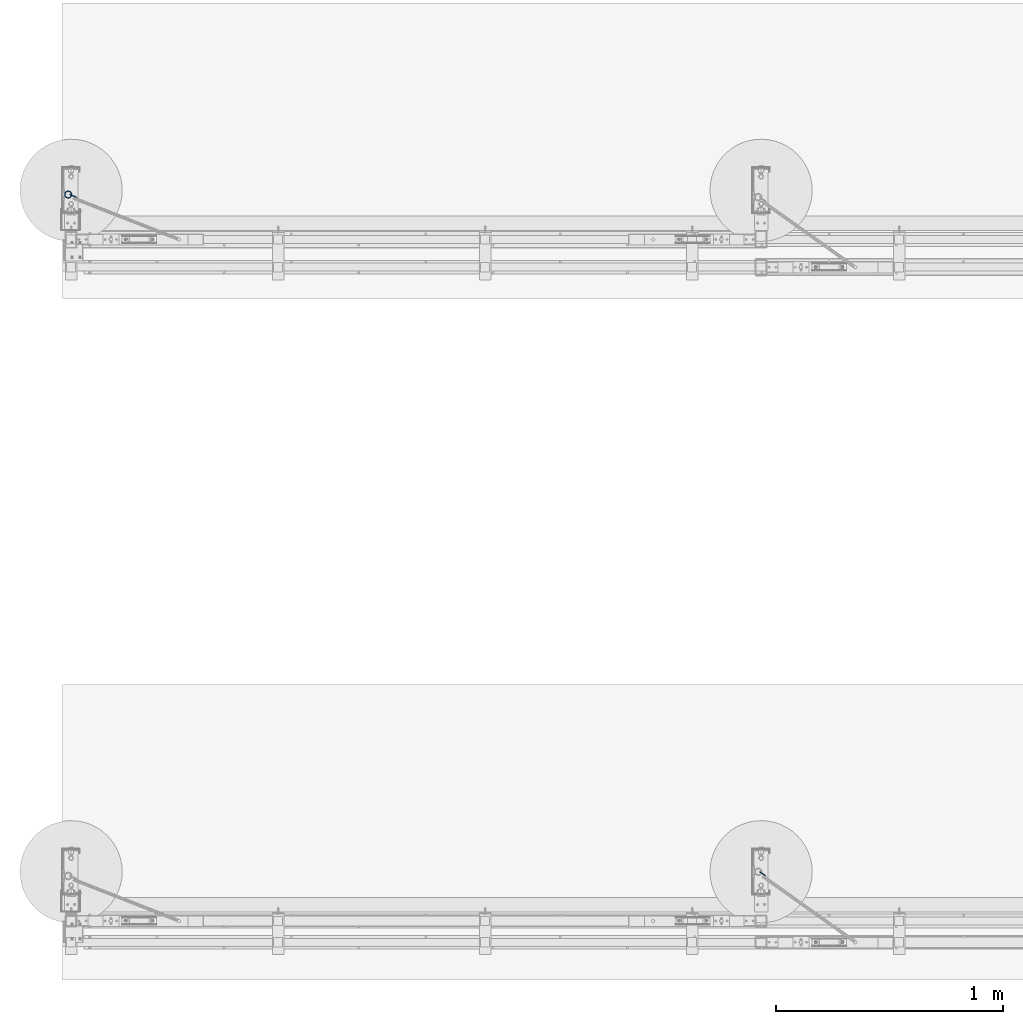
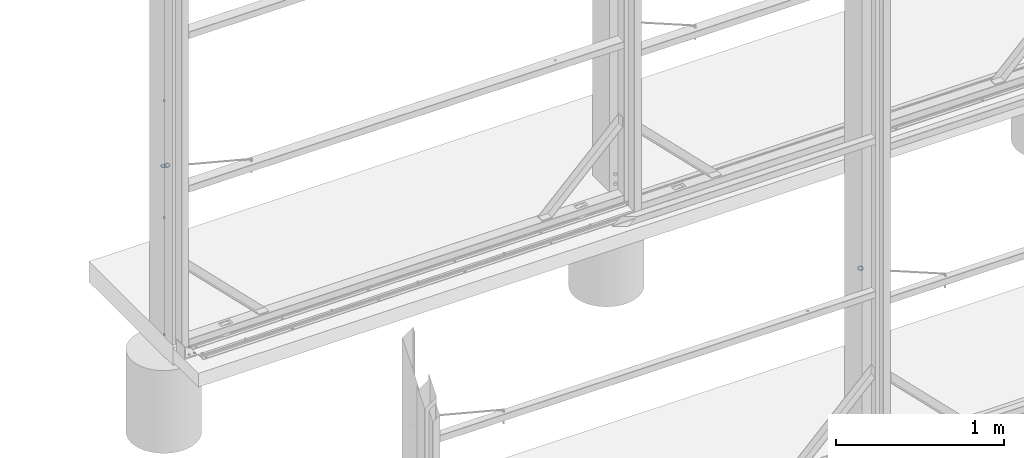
# One storey, part 85 of 91: 3 beams, 3 elements without a shape of their own.
"""IFC2X3 building model written with IfcOpenShell, lengths in millimetres."""

from ifc_helpers import new_model, si_unit, frame, origin_with_axes, place, context, subcontext, project, spatial, faceted_brep, material, type_object, element, aggregate, save


model = new_model("IFC2X3")

# Units and contexts
model_context = context("Model", 3, precision=1e-05, world=origin_with_axes())
body_context = subcontext(model_context, "Body", "Model", "MODEL_VIEW")
ifc_project = project(units=[si_unit("LENGTHUNIT", "METRE", prefix="MILLI"), si_unit("AREAUNIT", "SQUARE_METRE"), si_unit("VOLUMEUNIT", "CUBIC_METRE"), si_unit("MASSUNIT", "GRAM", prefix="KILO"), si_unit("TIMEUNIT", "SECOND"), si_unit("PLANEANGLEUNIT", "RADIAN"), si_unit("SOLIDANGLEUNIT", "STERADIAN"), si_unit("THERMODYNAMICTEMPERATUREUNIT", "DEGREE_CELSIUS"), si_unit("LUMINOUSINTENSITYUNIT", "LUMEN")], contexts=[model_context])

# Site, building, storey
site_placement = place(None, origin_with_axes())
site = spatial("IfcSite", under=ifc_project, at=site_placement, Name="Undefined", CompositionType="ELEMENT")
building_placement = place(site_placement, origin_with_axes())
building = spatial("IfcBuilding", under=site, at=building_placement, Name="Undefined", CompositionType="ELEMENT")
storey_placement = place(building_placement, origin_with_axes())
storey = spatial("IfcBuildingStorey", under=building, at=storey_placement, Name="Undefined", CompositionType="ELEMENT", Elevation=0.0)

# Assembly, beam
assembly_1_placement = place(storey_placement, origin_with_axes())
assembly_1 = element("IfcElementAssembly", 1, at=assembly_1_placement, inside=storey, Name="LINKS", AssemblyPlace="NOTDEFINED", PredefinedType="RIGID_FRAME")
ifc_material = material(Name="STEEL/250")
beam_type = type_object("IfcBeamType", Name="D5", PredefinedType="NOTDEFINED")
beam_1_placement = place(assembly_1_placement, frame((-116823.643040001, 87894.8948728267, 1162.34), z_axis=(0.0, 1.0, 0.0), x_axis=(1.0, 0.0, 0.0)))
beam_1 = element("IfcBeam", 2, at=beam_1_placement, type_object=beam_type, material=ifc_material, Name="LINKS", ObjectType="D5", context=body_context, shape_type="Brep", body=[
    faceted_brep([(31.767766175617, -1.76776700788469, 14.8999996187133), (32.4999992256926, -5.6170392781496e-08, 14.8999996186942), (32.4999992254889, -5.59666659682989e-08, 15.1000003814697), (31.7677661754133, -1.76776700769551, 15.1000003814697), (31.7677661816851, 1.76776689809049, 14.8999996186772), (31.7677661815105, 1.76776689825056, 15.1000003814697), (29.9999992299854, 2.49999994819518, 14.8999996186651), (29.9999992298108, 2.49999994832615, 15.1000003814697), (28.2322322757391, 1.76776690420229, 14.8999996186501), (28.232232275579, 1.76776690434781, 15.1000003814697), (27.4999992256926, -4.74974513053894e-08, 14.8999996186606), (27.4999992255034, -4.73810359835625e-08, 15.1000003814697), (28.2322322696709, -1.76776700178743, 14.8999996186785), (28.2322322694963, -1.76776700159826, 15.1000003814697), (29.999999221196, -2.5000000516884, 14.8999996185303), (29.9999992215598, -2.50000005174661, 15.100000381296), (28.0037777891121, -2.50000004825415, 22.5500001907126), (26.4728467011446, -1.76776699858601, 21.6661167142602), (25.8387142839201, -4.44706529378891e-08, 21.3000001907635), (26.4728467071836, 1.76776690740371, 21.666116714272), (28.0037777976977, 2.49999995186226, 22.5500001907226), (29.5347088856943, 1.76776690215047, 23.4338836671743), (30.1688413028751, -5.19503373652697e-08, 23.8000001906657), (29.5347088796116, -1.76776700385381, 23.4338836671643), (15.1008655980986, -2.49999993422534, 30.0000000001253), (22.5499994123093, -2.50000003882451, 28.0037785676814), (23.43388289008, -1.76776699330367, 29.5347096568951), (15.1008656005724, -1.767766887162, 31.7677669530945), (15.1008656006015, -1.76776688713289, 28.2322330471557), (21.6661159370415, -1.76776699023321, 26.4728474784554), (15.1008656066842, 6.58328644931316e-08, 27.5000000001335), (21.2999994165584, -3.6612618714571e-08, 25.8387150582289), (15.1008670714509, 1.76776695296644, 28.2322330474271), (21.6661159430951, 1.76776691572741, 26.4728474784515), (15.1008656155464, 2.50000006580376, 30.0), (22.5499994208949, 2.49999996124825, 28.0037785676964), (15.1000003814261, 1.76776695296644, 31.767766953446), (23.433882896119, 1.76776691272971, 29.5347096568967), (15.1008656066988, 6.58183125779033e-08, 32.5000000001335), (23.7999994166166, -4.09199856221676e-08, 30.1688420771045), (29.5347088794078, -1.76776700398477, 6.56611633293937), (28.0037777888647, -2.50000004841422, 7.44999980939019), (30.1688413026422, -5.2081304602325e-08, 6.19999980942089), (29.5347088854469, 1.7677669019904, 6.56611633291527), (28.0037777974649, 2.49999995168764, 7.44999980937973), (26.4728467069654, 1.7677669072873, 8.33388328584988), (25.8387142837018, -4.46161720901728e-08, 8.69999980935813), (26.4728467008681, -1.76776699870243, 8.33388328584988), (22.5499994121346, -2.50000003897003, 1.99622143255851), (21.6661159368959, -1.76776699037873, 3.52715252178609), (23.4338828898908, -1.76776699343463, 0.465290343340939), (23.7999994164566, -4.10655047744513e-08, -0.168842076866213), (23.4338828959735, 1.76776691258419, 0.465290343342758), (22.5499994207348, 2.49999996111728, 1.99622143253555), (21.666115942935, 1.76776691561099, 3.52715252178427), (21.2999994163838, -3.67290340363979e-08, 4.16128494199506), (15.100865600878, -1.76776688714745, 1.76776695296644), (15.1008656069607, 6.58183125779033e-08, 2.5), (15.1008655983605, -2.49999993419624, 0.0), (15.100865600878, -1.76776688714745, -1.76776695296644), (15.1008656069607, 6.58183125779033e-08, -2.5), (15.1008670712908, 1.76776695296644, -1.76776695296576), (15.1008656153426, 2.50000006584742, -8.84483597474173e-11), (15.1000003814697, 1.76776695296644, 1.76776695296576), (-1.56690095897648, 1.76776707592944, 14.899999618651), (-2.29913401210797, 1.25408405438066e-07, 14.8999996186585), (-2.2991340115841, 1.25524820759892e-07, 15.1000003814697), (-1.56690095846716, 1.7677670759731, 15.1000003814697), (-1.56690097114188, -1.76776683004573, 14.8999996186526), (-1.56690097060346, -1.76776682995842, 15.1000003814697), (0.200865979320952, -2.49999988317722, 14.8999996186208), (0.200865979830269, -2.49999988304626, 15.1000003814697), (1.96863293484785, -1.76776684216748, 14.8999996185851), (1.96863293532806, -1.76776684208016, 15.1000003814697), (2.70086598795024, 1.08309905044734e-07, 14.899999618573), (2.7008659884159, 1.08382664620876e-07, 15.1000003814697), (1.96863294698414, 1.7677670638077, 14.8999996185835), (1.96863294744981, 1.7677670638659, 15.1000003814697), (0.200865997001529, 2.50000011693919, 14.8999996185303), (0.200865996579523, 2.50000011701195, 15.1000003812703), (2.19708742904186, 2.5000001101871, 22.5500001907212), (3.72801851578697, 1.76776705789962, 21.6661167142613), (4.36215092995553, 1.02707417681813e-07, 21.3000001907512), (3.72801850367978, -1.76776684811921, 21.6661167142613), (2.19708741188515, -2.49999988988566, 22.5500001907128), (0.666156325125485, -1.76776683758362, 23.43388366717), (0.0320239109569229, 1.17594026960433e-07, 23.8000001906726), (0.66615633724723, 1.76776706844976, 23.4338836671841), (7.65086580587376, 2.50000009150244, 28.003778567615), (6.76698232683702, 1.76776704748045, 29.5347096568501), (8.53474927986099, 1.76776704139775, 26.4728474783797), (8.90086579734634, 8.71368683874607e-08, 25.8387150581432), (8.53474926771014, -1.76776686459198, 26.4728474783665), (7.65086578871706, -2.49999990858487, 28.0037785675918), (6.76698231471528, -1.76776685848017, 29.534709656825), (6.40086579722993, 9.57516022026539e-08, 30.1688420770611), (0.66615633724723, 1.76776706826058, 6.56611633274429), (2.19708742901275, 2.50000011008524, 7.44999980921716), (0.032023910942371, 1.1743395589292e-07, 6.19999980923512), (0.666156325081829, -1.76776683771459, 6.5661163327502), (2.19708741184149, -2.49999988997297, 7.44999980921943), (3.72801850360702, -1.76776684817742, 8.33388328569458), (4.36215092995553, 1.02634658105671e-07, 8.69999980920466), (3.72801851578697, 1.76776705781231, 8.33388328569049), (7.65086580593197, 2.50000009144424, 1.99622143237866), (8.5347492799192, 1.76776704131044, 3.52715252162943), (6.76698232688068, 1.76776704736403, 0.465290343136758), (6.40086579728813, 9.5635186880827e-08, -0.168842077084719), (6.76698231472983, -1.76776685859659, 0.465290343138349), (7.65086578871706, -2.49999990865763, 1.99622143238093), (8.53474926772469, -1.76776686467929, 3.52715252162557), (8.90086579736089, 8.70786607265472e-08, 4.16128494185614)], [[[0, 1, 2, 3]], [[1, 4, 5, 2]], [[4, 6, 7, 5]], [[6, 8, 9, 7]], [[8, 10, 11, 9]], [[10, 12, 13, 11]], [[12, 14, 15, 13]], [[13, 15, 16, 17]], [[11, 13, 17, 18]], [[9, 11, 18, 19]], [[7, 9, 19, 20]], [[5, 7, 20, 21]], [[2, 5, 21, 22]], [[3, 2, 22, 23]], [[24, 25, 26, 27]], [[28, 29, 25, 24]], [[30, 31, 29, 28]], [[32, 33, 31, 30]], [[34, 35, 33, 32]], [[36, 37, 35, 34]], [[38, 39, 37, 36]], [[27, 26, 39, 38]], [[22, 39, 26, 23]], [[21, 37, 39, 22]], [[20, 35, 37, 21]], [[19, 33, 35, 20]], [[18, 31, 33, 19]], [[17, 29, 31, 18]], [[16, 25, 29, 17]], [[23, 26, 25, 16]], [[15, 3, 23, 16]], [[14, 0, 3, 15]], [[40, 0, 14, 41]], [[42, 1, 0, 40]], [[43, 4, 1, 42]], [[44, 6, 4, 43]], [[45, 8, 6, 44]], [[46, 10, 8, 45]], [[47, 12, 10, 46]], [[41, 14, 12, 47]], [[48, 41, 47, 49]], [[50, 40, 41, 48]], [[51, 42, 40, 50]], [[52, 43, 42, 51]], [[53, 44, 43, 52]], [[54, 45, 44, 53]], [[55, 46, 45, 54]], [[49, 47, 46, 55]], [[56, 49, 55, 57]], [[58, 48, 49, 56]], [[59, 50, 48, 58]], [[60, 51, 50, 59]], [[61, 52, 51, 60]], [[62, 53, 52, 61]], [[63, 54, 53, 62]], [[57, 55, 54, 63]], [[64, 65, 66, 67]], [[65, 68, 69, 66]], [[68, 70, 71, 69]], [[70, 72, 73, 71]], [[72, 74, 75, 73]], [[74, 76, 77, 75]], [[76, 78, 79, 77]], [[77, 79, 80, 81]], [[75, 77, 81, 82]], [[73, 75, 82, 83]], [[71, 73, 83, 84]], [[69, 71, 84, 85]], [[66, 69, 85, 86]], [[67, 66, 86, 87]], [[88, 89, 36, 34]], [[90, 88, 34, 32]], [[91, 90, 32, 30]], [[92, 91, 30, 28]], [[93, 92, 28, 24]], [[94, 93, 24, 27]], [[95, 94, 27, 38]], [[89, 95, 38, 36]], [[86, 95, 89, 87]], [[85, 94, 95, 86]], [[84, 93, 94, 85]], [[83, 92, 93, 84]], [[82, 91, 92, 83]], [[81, 90, 91, 82]], [[80, 88, 90, 81]], [[87, 89, 88, 80]], [[79, 67, 87, 80]], [[78, 64, 67, 79]], [[96, 64, 78, 97]], [[98, 65, 64, 96]], [[99, 68, 65, 98]], [[100, 70, 68, 99]], [[101, 72, 70, 100]], [[102, 74, 72, 101]], [[103, 76, 74, 102]], [[97, 78, 76, 103]], [[104, 97, 103, 105]], [[106, 96, 97, 104]], [[107, 98, 96, 106]], [[108, 99, 98, 107]], [[109, 100, 99, 108]], [[110, 101, 100, 109]], [[111, 102, 101, 110]], [[105, 103, 102, 111]], [[105, 111, 57, 63]], [[104, 105, 63, 62]], [[106, 104, 62, 61]], [[107, 106, 61, 60]], [[108, 107, 60, 59]], [[109, 108, 59, 58]], [[110, 109, 58, 56]], [[111, 110, 56, 57]]]),
])
aggregate(assembly_1, [beam_1])

assembly_2_placement = place(storey_placement, origin_with_axes())
assembly_2 = element("IfcElementAssembly", 3, at=assembly_2_placement, inside=storey, Name="LINKS", AssemblyPlace="NOTDEFINED", PredefinedType="RIGID_FRAME")
beam_2_placement = place(assembly_2_placement, frame((-116801.241874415, 87909.7835499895, 1147.33595884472), z_axis=(0.0, 0.0, 1.0), x_axis=(0.931124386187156, -0.364701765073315, 0.0)))
beam_2 = element("IfcBeam", 4, at=beam_2_placement, type_object=beam_type, material=ifc_material, Name="LINKS", ObjectType="D5", context=body_context, shape_type="Brep", body=[
    faceted_brep([(28.2322322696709, -1.76776700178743, 14.8999996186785), (29.999999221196, -2.5000000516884, 14.8999996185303), (29.9999992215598, -2.50000005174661, 15.100000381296), (28.2322322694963, -1.76776700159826, 15.1000003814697), (31.767766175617, -1.76776700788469, 14.8999996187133), (31.7677661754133, -1.76776700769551, 15.1000003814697), (32.4999992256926, -5.6170392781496e-08, 14.8999996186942), (32.4999992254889, -5.59666659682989e-08, 15.1000003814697), (31.7677661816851, 1.76776689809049, 14.8999996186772), (31.7677661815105, 1.76776689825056, 15.1000003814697), (29.9999992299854, 2.49999994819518, 14.8999996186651), (29.9999992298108, 2.49999994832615, 15.1000003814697), (28.2322322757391, 1.76776690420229, 14.8999996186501), (28.232232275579, 1.76776690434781, 15.1000003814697), (27.4999992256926, -4.74974513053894e-08, 14.8999996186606), (27.4999992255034, -4.73810359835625e-08, 15.1000003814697), (25.8387142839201, -4.44706529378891e-08, 21.3000001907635), (26.4728467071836, 1.76776690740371, 21.666116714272), (28.0037777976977, 2.49999995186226, 22.5500001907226), (29.5347088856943, 1.76776690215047, 23.4338836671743), (30.1688413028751, -5.19503373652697e-08, 23.8000001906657), (29.5347088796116, -1.76776700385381, 23.4338836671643), (28.0037777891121, -2.50000004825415, 22.5500001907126), (26.4728467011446, -1.76776699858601, 21.6661167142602), (15.1008655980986, -2.49999993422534, 30.0000000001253), (22.5499994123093, -2.50000003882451, 28.0037785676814), (23.43388289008, -1.76776699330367, 29.5347096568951), (15.1008656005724, -1.767766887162, 31.7677669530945), (23.7999994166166, -4.09199856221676e-08, 30.1688420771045), (15.1008656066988, 6.58183125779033e-08, 32.5000000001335), (23.433882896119, 1.76776691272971, 29.5347096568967), (15.1008656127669, 1.76776701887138, 31.7677669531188), (22.5499994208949, 2.49999996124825, 28.0037785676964), (15.1008656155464, 2.50000006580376, 30.0), (15.1008656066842, 6.58328644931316e-08, 27.5000000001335), (21.2999994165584, -3.6612618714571e-08, 25.8387150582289), (21.6661159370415, -1.76776699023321, 26.4728474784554), (15.1008656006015, -1.76776688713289, 28.2322330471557), (15.0999996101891, 1.76776692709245, 28.2322330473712), (21.6661159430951, 1.76776691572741, 26.4728474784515), (26.4728467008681, -1.76776699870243, 8.33388328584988), (25.8387142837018, -4.46161720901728e-08, 8.69999980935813), (28.0037777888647, -2.50000004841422, 7.44999980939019), (29.5347088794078, -1.76776700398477, 6.56611633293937), (30.1688413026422, -5.2081304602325e-08, 6.19999980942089), (29.5347088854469, 1.7677669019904, 6.56611633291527), (28.0037777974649, 2.49999995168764, 7.44999980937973), (26.4728467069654, 1.7677669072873, 8.33388328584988), (21.2999994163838, -3.67290340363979e-08, 4.16128494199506), (21.666115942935, 1.76776691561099, 3.52715252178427), (21.6661159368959, -1.76776699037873, 3.52715252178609), (22.5499994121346, -2.50000003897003, 1.99622143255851), (23.4338828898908, -1.76776699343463, 0.465290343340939), (23.7999994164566, -4.10655047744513e-08, -0.168842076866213), (23.4338828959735, 1.76776691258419, 0.465290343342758), (22.5499994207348, 2.49999996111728, 1.99622143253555), (15.1008656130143, 1.76776701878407, 1.76776695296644), (15.1008656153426, 2.50000006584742, -8.84483597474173e-11), (15.1008656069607, 6.58183125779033e-08, 2.5), (15.100865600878, -1.76776688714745, 1.76776695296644), (15.1008655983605, -2.49999993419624, 0.0), (15.100865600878, -1.76776688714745, -1.76776695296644), (15.1008656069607, 6.58183125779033e-08, -2.5), (15.0999996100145, 1.76776692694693, -1.76776695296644), (-1.56690097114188, -1.76776683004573, 14.8999996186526), (0.200865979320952, -2.49999988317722, 14.8999996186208), (0.200865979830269, -2.49999988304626, 15.1000003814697), (-1.56690097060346, -1.76776682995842, 15.1000003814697), (1.96863293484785, -1.76776684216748, 14.8999996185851), (1.96863293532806, -1.76776684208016, 15.1000003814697), (2.70086598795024, 1.08309905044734e-07, 14.899999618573), (2.7008659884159, 1.08382664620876e-07, 15.1000003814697), (1.96863294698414, 1.7677670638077, 14.8999996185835), (1.96863294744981, 1.7677670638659, 15.1000003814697), (0.200865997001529, 2.50000011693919, 14.8999996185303), (0.200865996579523, 2.50000011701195, 15.1000003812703), (-1.56690095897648, 1.76776707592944, 14.899999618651), (-1.56690095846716, 1.7677670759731, 15.1000003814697), (-2.29913401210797, 1.25408405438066e-07, 14.8999996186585), (-2.2991340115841, 1.25524820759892e-07, 15.1000003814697), (0.0320239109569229, 1.17594026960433e-07, 23.8000001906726), (0.66615633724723, 1.76776706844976, 23.4338836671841), (2.19708742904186, 2.5000001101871, 22.5500001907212), (3.72801851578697, 1.76776705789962, 21.6661167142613), (4.36215092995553, 1.02707417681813e-07, 21.3000001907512), (3.72801850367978, -1.76776684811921, 21.6661167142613), (2.19708741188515, -2.49999988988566, 22.5500001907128), (0.666156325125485, -1.76776683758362, 23.43388366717), (7.65086578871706, -2.49999990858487, 28.0037785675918), (8.53474926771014, -1.76776686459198, 26.4728474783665), (8.90086579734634, 8.71368683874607e-08, 25.8387150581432), (8.53474927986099, 1.76776704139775, 26.4728474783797), (7.65086580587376, 2.50000009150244, 28.003778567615), (6.40086579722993, 9.57516022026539e-08, 30.1688420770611), (6.76698231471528, -1.76776685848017, 29.534709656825), (6.76698232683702, 1.76776704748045, 29.5347096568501), (0.666156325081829, -1.76776683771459, 6.5661163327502), (0.032023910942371, 1.1743395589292e-07, 6.19999980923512), (2.19708741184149, -2.49999988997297, 7.44999980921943), (3.72801850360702, -1.76776684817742, 8.33388328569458), (4.36215092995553, 1.02634658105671e-07, 8.69999980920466), (3.72801851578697, 1.76776705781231, 8.33388328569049), (2.19708742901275, 2.50000011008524, 7.44999980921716), (0.66615633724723, 1.76776706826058, 6.56611633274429), (6.40086579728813, 9.5635186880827e-08, -0.168842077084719), (6.76698232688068, 1.76776704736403, 0.465290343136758), (6.76698231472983, -1.76776685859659, 0.465290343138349), (7.65086578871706, -2.49999990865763, 1.99622143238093), (8.53474926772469, -1.76776686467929, 3.52715252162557), (8.90086579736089, 8.70786607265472e-08, 4.16128494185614), (8.5347492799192, 1.76776704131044, 3.52715252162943), (7.65086580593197, 2.50000009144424, 1.99622143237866)], [[[0, 1, 2, 3]], [[1, 4, 5, 2]], [[4, 6, 7, 5]], [[6, 8, 9, 7]], [[8, 10, 11, 9]], [[10, 12, 13, 11]], [[12, 14, 15, 13]], [[13, 15, 16, 17]], [[11, 13, 17, 18]], [[9, 11, 18, 19]], [[7, 9, 19, 20]], [[5, 7, 20, 21]], [[2, 5, 21, 22]], [[3, 2, 22, 23]], [[24, 25, 26, 27]], [[27, 26, 28, 29]], [[29, 28, 30, 31]], [[31, 30, 32, 33]], [[34, 35, 36, 37]], [[38, 39, 35, 34]], [[33, 32, 39, 38]], [[37, 36, 25, 24]], [[22, 25, 36, 23]], [[21, 26, 25, 22]], [[20, 28, 26, 21]], [[19, 30, 28, 20]], [[18, 32, 30, 19]], [[17, 39, 32, 18]], [[16, 35, 39, 17]], [[23, 36, 35, 16]], [[15, 3, 23, 16]], [[14, 0, 3, 15]], [[40, 0, 14, 41]], [[42, 1, 0, 40]], [[43, 4, 1, 42]], [[44, 6, 4, 43]], [[45, 8, 6, 44]], [[46, 10, 8, 45]], [[47, 12, 10, 46]], [[41, 14, 12, 47]], [[48, 41, 47, 49]], [[50, 40, 41, 48]], [[51, 42, 40, 50]], [[52, 43, 42, 51]], [[53, 44, 43, 52]], [[54, 45, 44, 53]], [[55, 46, 45, 54]], [[49, 47, 46, 55]], [[56, 49, 55, 57]], [[58, 48, 49, 56]], [[59, 50, 48, 58]], [[60, 51, 50, 59]], [[61, 52, 51, 60]], [[62, 53, 52, 61]], [[63, 54, 53, 62]], [[57, 55, 54, 63]], [[64, 65, 66, 67]], [[65, 68, 69, 66]], [[68, 70, 71, 69]], [[70, 72, 73, 71]], [[72, 74, 75, 73]], [[74, 76, 77, 75]], [[76, 78, 79, 77]], [[77, 79, 80, 81]], [[75, 77, 81, 82]], [[73, 75, 82, 83]], [[71, 73, 83, 84]], [[69, 71, 84, 85]], [[66, 69, 85, 86]], [[67, 66, 86, 87]], [[88, 89, 37, 24]], [[89, 90, 34, 37]], [[90, 91, 38, 34]], [[91, 92, 33, 38]], [[93, 94, 27, 29]], [[95, 93, 29, 31]], [[92, 95, 31, 33]], [[94, 88, 24, 27]], [[86, 88, 94, 87]], [[85, 89, 88, 86]], [[84, 90, 89, 85]], [[83, 91, 90, 84]], [[82, 92, 91, 83]], [[81, 95, 92, 82]], [[80, 93, 95, 81]], [[87, 94, 93, 80]], [[79, 67, 87, 80]], [[78, 64, 67, 79]], [[96, 64, 78, 97]], [[98, 65, 64, 96]], [[99, 68, 65, 98]], [[100, 70, 68, 99]], [[101, 72, 70, 100]], [[102, 74, 72, 101]], [[103, 76, 74, 102]], [[97, 78, 76, 103]], [[104, 97, 103, 105]], [[106, 96, 97, 104]], [[107, 98, 96, 106]], [[108, 99, 98, 107]], [[109, 100, 99, 108]], [[110, 101, 100, 109]], [[111, 102, 101, 110]], [[105, 103, 102, 111]], [[105, 111, 57, 63]], [[104, 105, 63, 62]], [[106, 104, 62, 61]], [[107, 106, 61, 60]], [[108, 107, 60, 59]], [[109, 108, 59, 58]], [[110, 109, 58, 56]], [[111, 110, 56, 57]]]),
])
aggregate(assembly_2, [beam_2])

assembly_3_placement = place(storey_placement, origin_with_axes())
assembly_3 = element("IfcElementAssembly", 5, at=assembly_3_placement, inside=storey, Name="LINKS", AssemblyPlace="NOTDEFINED", PredefinedType="RIGID_FRAME")
beam_3_placement = place(assembly_3_placement, frame((-113763.740959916, 84928.5338980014, 1147.33595884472), z_axis=(0.0, 0.0, 1.0), x_axis=(0.815236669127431, -0.57912794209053, 0.0)))
beam_3 = element("IfcBeam", 6, at=beam_3_placement, type_object=beam_type, material=ifc_material, Name="LINKS", ObjectType="D5", context=body_context, shape_type="Brep", body=[
    faceted_brep([(28.2322322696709, -1.76776700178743, 14.8999996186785), (29.999999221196, -2.5000000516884, 14.8999996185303), (29.9999992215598, -2.50000005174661, 15.100000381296), (28.2322322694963, -1.76776700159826, 15.1000003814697), (31.767766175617, -1.76776700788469, 14.8999996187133), (31.7677661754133, -1.76776700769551, 15.1000003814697), (32.4999992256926, -5.6170392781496e-08, 14.8999996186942), (32.4999992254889, -5.59666659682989e-08, 15.1000003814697), (31.7677661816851, 1.76776689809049, 14.8999996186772), (31.7677661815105, 1.76776689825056, 15.1000003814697), (29.9999992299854, 2.49999994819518, 14.8999996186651), (29.9999992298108, 2.49999994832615, 15.1000003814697), (28.2322322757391, 1.76776690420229, 14.8999996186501), (28.232232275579, 1.76776690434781, 15.1000003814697), (27.4999992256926, -4.74974513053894e-08, 14.8999996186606), (27.4999992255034, -4.73810359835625e-08, 15.1000003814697), (25.8387142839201, -4.44706529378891e-08, 21.3000001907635), (26.4728467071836, 1.76776690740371, 21.666116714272), (28.0037777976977, 2.49999995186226, 22.5500001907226), (29.5347088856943, 1.76776690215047, 23.4338836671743), (30.1688413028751, -5.19503373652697e-08, 23.8000001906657), (29.5347088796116, -1.76776700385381, 23.4338836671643), (28.0037777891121, -2.50000004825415, 22.5500001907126), (26.4728467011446, -1.76776699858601, 21.6661167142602), (15.1008655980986, -2.49999993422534, 30.0000000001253), (22.5499994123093, -2.50000003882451, 28.0037785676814), (23.43388289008, -1.76776699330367, 29.5347096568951), (15.1008656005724, -1.767766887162, 31.7677669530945), (23.7999994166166, -4.09199856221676e-08, 30.1688420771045), (15.1008656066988, 6.58183125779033e-08, 32.5000000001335), (23.433882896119, 1.76776691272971, 29.5347096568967), (15.1008656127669, 1.76776701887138, 31.7677669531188), (22.5499994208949, 2.49999996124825, 28.0037785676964), (15.1008656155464, 2.50000006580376, 30.0), (15.1008656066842, 6.58328644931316e-08, 27.5000000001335), (21.2999994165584, -3.6612618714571e-08, 25.8387150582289), (21.6661159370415, -1.76776699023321, 26.4728474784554), (15.1008656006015, -1.76776688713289, 28.2322330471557), (15.0999996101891, 1.76776692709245, 28.2322330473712), (21.6661159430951, 1.76776691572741, 26.4728474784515), (26.4728467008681, -1.76776699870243, 8.33388328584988), (25.8387142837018, -4.46161720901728e-08, 8.69999980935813), (28.0037777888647, -2.50000004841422, 7.44999980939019), (29.5347088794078, -1.76776700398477, 6.56611633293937), (30.1688413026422, -5.2081304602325e-08, 6.19999980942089), (29.5347088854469, 1.7677669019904, 6.56611633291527), (28.0037777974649, 2.49999995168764, 7.44999980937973), (26.4728467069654, 1.7677669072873, 8.33388328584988), (21.2999994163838, -3.67290340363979e-08, 4.16128494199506), (21.666115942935, 1.76776691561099, 3.52715252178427), (21.6661159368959, -1.76776699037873, 3.52715252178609), (22.5499994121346, -2.50000003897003, 1.99622143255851), (23.4338828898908, -1.76776699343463, 0.465290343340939), (23.7999994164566, -4.10655047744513e-08, -0.168842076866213), (23.4338828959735, 1.76776691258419, 0.465290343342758), (22.5499994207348, 2.49999996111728, 1.99622143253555), (15.1008656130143, 1.76776701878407, 1.76776695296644), (15.1008656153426, 2.50000006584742, -8.84483597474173e-11), (15.1008656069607, 6.58183125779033e-08, 2.5), (15.100865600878, -1.76776688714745, 1.76776695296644), (15.1008655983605, -2.49999993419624, 0.0), (15.100865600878, -1.76776688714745, -1.76776695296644), (15.1008656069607, 6.58183125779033e-08, -2.5), (15.0999996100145, 1.76776692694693, -1.76776695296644), (-1.56690097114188, -1.76776683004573, 14.8999996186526), (0.200865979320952, -2.49999988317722, 14.8999996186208), (0.200865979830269, -2.49999988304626, 15.1000003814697), (-1.56690097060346, -1.76776682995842, 15.1000003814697), (1.96863293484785, -1.76776684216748, 14.8999996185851), (1.96863293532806, -1.76776684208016, 15.1000003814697), (2.70086598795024, 1.08309905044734e-07, 14.899999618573), (2.7008659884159, 1.08382664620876e-07, 15.1000003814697), (1.96863294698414, 1.7677670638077, 14.8999996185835), (1.96863294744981, 1.7677670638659, 15.1000003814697), (0.200865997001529, 2.50000011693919, 14.8999996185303), (0.200865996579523, 2.50000011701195, 15.1000003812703), (-1.56690095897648, 1.76776707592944, 14.899999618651), (-1.56690095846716, 1.7677670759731, 15.1000003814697), (-2.29913401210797, 1.25408405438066e-07, 14.8999996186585), (-2.2991340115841, 1.25524820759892e-07, 15.1000003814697), (0.0320239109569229, 1.17594026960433e-07, 23.8000001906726), (0.66615633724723, 1.76776706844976, 23.4338836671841), (2.19708742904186, 2.5000001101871, 22.5500001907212), (3.72801851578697, 1.76776705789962, 21.6661167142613), (4.36215092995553, 1.02707417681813e-07, 21.3000001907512), (3.72801850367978, -1.76776684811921, 21.6661167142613), (2.19708741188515, -2.49999988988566, 22.5500001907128), (0.666156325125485, -1.76776683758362, 23.43388366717), (7.65086578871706, -2.49999990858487, 28.0037785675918), (8.53474926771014, -1.76776686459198, 26.4728474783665), (8.90086579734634, 8.71368683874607e-08, 25.8387150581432), (8.53474927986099, 1.76776704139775, 26.4728474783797), (7.65086580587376, 2.50000009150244, 28.003778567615), (6.40086579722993, 9.57516022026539e-08, 30.1688420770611), (6.76698231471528, -1.76776685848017, 29.534709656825), (6.76698232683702, 1.76776704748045, 29.5347096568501), (0.666156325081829, -1.76776683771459, 6.5661163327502), (0.032023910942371, 1.1743395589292e-07, 6.19999980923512), (2.19708741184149, -2.49999988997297, 7.44999980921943), (3.72801850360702, -1.76776684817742, 8.33388328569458), (4.36215092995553, 1.02634658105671e-07, 8.69999980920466), (3.72801851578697, 1.76776705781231, 8.33388328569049), (2.19708742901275, 2.50000011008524, 7.44999980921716), (0.66615633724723, 1.76776706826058, 6.56611633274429), (6.40086579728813, 9.5635186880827e-08, -0.168842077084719), (6.76698232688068, 1.76776704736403, 0.465290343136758), (6.76698231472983, -1.76776685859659, 0.465290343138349), (7.65086578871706, -2.49999990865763, 1.99622143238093), (8.53474926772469, -1.76776686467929, 3.52715252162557), (8.90086579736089, 8.70786607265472e-08, 4.16128494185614), (8.5347492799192, 1.76776704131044, 3.52715252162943), (7.65086580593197, 2.50000009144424, 1.99622143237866)], [[[0, 1, 2, 3]], [[1, 4, 5, 2]], [[4, 6, 7, 5]], [[6, 8, 9, 7]], [[8, 10, 11, 9]], [[10, 12, 13, 11]], [[12, 14, 15, 13]], [[13, 15, 16, 17]], [[11, 13, 17, 18]], [[9, 11, 18, 19]], [[7, 9, 19, 20]], [[5, 7, 20, 21]], [[2, 5, 21, 22]], [[3, 2, 22, 23]], [[24, 25, 26, 27]], [[27, 26, 28, 29]], [[29, 28, 30, 31]], [[31, 30, 32, 33]], [[34, 35, 36, 37]], [[38, 39, 35, 34]], [[33, 32, 39, 38]], [[37, 36, 25, 24]], [[22, 25, 36, 23]], [[21, 26, 25, 22]], [[20, 28, 26, 21]], [[19, 30, 28, 20]], [[18, 32, 30, 19]], [[17, 39, 32, 18]], [[16, 35, 39, 17]], [[23, 36, 35, 16]], [[15, 3, 23, 16]], [[14, 0, 3, 15]], [[40, 0, 14, 41]], [[42, 1, 0, 40]], [[43, 4, 1, 42]], [[44, 6, 4, 43]], [[45, 8, 6, 44]], [[46, 10, 8, 45]], [[47, 12, 10, 46]], [[41, 14, 12, 47]], [[48, 41, 47, 49]], [[50, 40, 41, 48]], [[51, 42, 40, 50]], [[52, 43, 42, 51]], [[53, 44, 43, 52]], [[54, 45, 44, 53]], [[55, 46, 45, 54]], [[49, 47, 46, 55]], [[56, 49, 55, 57]], [[58, 48, 49, 56]], [[59, 50, 48, 58]], [[60, 51, 50, 59]], [[61, 52, 51, 60]], [[62, 53, 52, 61]], [[63, 54, 53, 62]], [[57, 55, 54, 63]], [[64, 65, 66, 67]], [[65, 68, 69, 66]], [[68, 70, 71, 69]], [[70, 72, 73, 71]], [[72, 74, 75, 73]], [[74, 76, 77, 75]], [[76, 78, 79, 77]], [[77, 79, 80, 81]], [[75, 77, 81, 82]], [[73, 75, 82, 83]], [[71, 73, 83, 84]], [[69, 71, 84, 85]], [[66, 69, 85, 86]], [[67, 66, 86, 87]], [[88, 89, 37, 24]], [[89, 90, 34, 37]], [[90, 91, 38, 34]], [[91, 92, 33, 38]], [[93, 94, 27, 29]], [[95, 93, 29, 31]], [[92, 95, 31, 33]], [[94, 88, 24, 27]], [[86, 88, 94, 87]], [[85, 89, 88, 86]], [[84, 90, 89, 85]], [[83, 91, 90, 84]], [[82, 92, 91, 83]], [[81, 95, 92, 82]], [[80, 93, 95, 81]], [[87, 94, 93, 80]], [[79, 67, 87, 80]], [[78, 64, 67, 79]], [[96, 64, 78, 97]], [[98, 65, 64, 96]], [[99, 68, 65, 98]], [[100, 70, 68, 99]], [[101, 72, 70, 100]], [[102, 74, 72, 101]], [[103, 76, 74, 102]], [[97, 78, 76, 103]], [[104, 97, 103, 105]], [[106, 96, 97, 104]], [[107, 98, 96, 106]], [[108, 99, 98, 107]], [[109, 100, 99, 108]], [[110, 101, 100, 109]], [[111, 102, 101, 110]], [[105, 103, 102, 111]], [[105, 111, 57, 63]], [[104, 105, 63, 62]], [[106, 104, 62, 61]], [[107, 106, 61, 60]], [[108, 107, 60, 59]], [[109, 108, 59, 58]], [[110, 109, 58, 56]], [[111, 110, 56, 57]]]),
])
aggregate(assembly_3, [beam_3])

save(model, "model.ifc")
